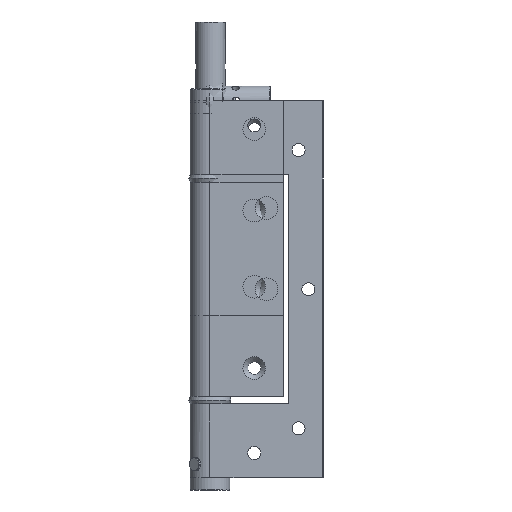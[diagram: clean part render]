
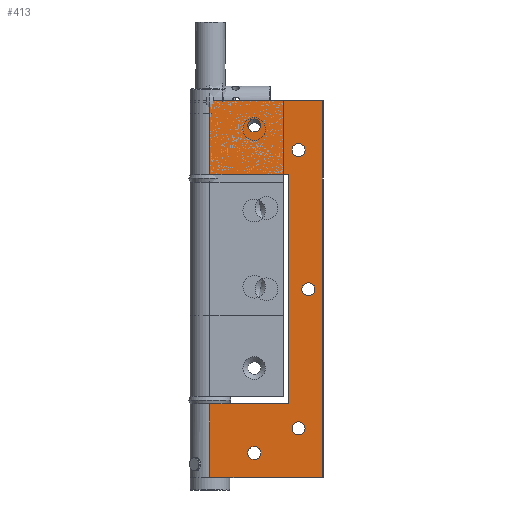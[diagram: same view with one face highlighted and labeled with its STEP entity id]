
A CAD part, front view. The second image highlights one B-rep face of the part: STEP entity #413.
In plain terms, the highlighted planar face has unit normal (0, -1, 0).
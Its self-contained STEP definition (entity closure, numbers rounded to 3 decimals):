
#413 = ADVANCED_FACE( '', ( #918, #919, #920, #921, #922, #923 ), #924, .T. );
#918 = FACE_OUTER_BOUND( '', #1465, .T. );
#919 = FACE_BOUND( '', #1466, .T. );
#920 = FACE_BOUND( '', #1467, .T. );
#921 = FACE_BOUND( '', #1468, .T. );
#922 = FACE_BOUND( '', #1469, .T. );
#923 = FACE_BOUND( '', #1470, .T. );
#924 = PLANE( '', #1471 );
#1465 = EDGE_LOOP( '', ( #2458, #2459, #2460, #2461, #2462, #2463, #2464, #2465 ) );
#1466 = EDGE_LOOP( '', ( #2466 ) );
#1467 = EDGE_LOOP( '', ( #2467 ) );
#1468 = EDGE_LOOP( '', ( #2468 ) );
#1469 = EDGE_LOOP( '', ( #2469 ) );
#1470 = EDGE_LOOP( '', ( #2470 ) );
#1471 = AXIS2_PLACEMENT_3D( '', #2471, #2472, #2473 );
#2458 = ORIENTED_EDGE( '', *, *, #2755, .T. );
#2459 = ORIENTED_EDGE( '', *, *, #3055, .T. );
#2460 = ORIENTED_EDGE( '', *, *, #3003, .T. );
#2461 = ORIENTED_EDGE( '', *, *, #2969, .T. );
#2462 = ORIENTED_EDGE( '', *, *, #2762, .T. );
#2463 = ORIENTED_EDGE( '', *, *, #2893, .F. );
#2464 = ORIENTED_EDGE( '', *, *, #2804, .T. );
#2465 = ORIENTED_EDGE( '', *, *, #3056, .T. );
#2466 = ORIENTED_EDGE( '', *, *, #3023, .T. );
#2467 = ORIENTED_EDGE( '', *, *, #2712, .T. );
#2468 = ORIENTED_EDGE( '', *, *, #2693, .T. );
#2469 = ORIENTED_EDGE( '', *, *, #3007, .T. );
#2470 = ORIENTED_EDGE( '', *, *, #3021, .T. );
#2471 = CARTESIAN_POINT( '', ( 0., -8., 0. ) );
#2472 = DIRECTION( '', ( 0., -1., 0. ) );
#2473 = DIRECTION( '', ( 0., 0., -1. ) );
#2693 = EDGE_CURVE( '', #3101, #3101, #3102, .T. );
#2712 = EDGE_CURVE( '', #3134, #3134, #3135, .T. );
#2755 = EDGE_CURVE( '', #3210, #3211, #3212, .T. );
#2762 = EDGE_CURVE( '', #3223, #3224, #3225, .T. );
#2804 = EDGE_CURVE( '', #3296, #3293, #3297, .T. );
#2893 = EDGE_CURVE( '', #3296, #3224, #3436, .T. );
#2969 = EDGE_CURVE( '', #3543, #3223, #3547, .T. );
#3003 = EDGE_CURVE( '', #3592, #3543, #3593, .T. );
#3007 = EDGE_CURVE( '', #3597, #3597, #3598, .T. );
#3021 = EDGE_CURVE( '', #3616, #3616, #3617, .T. );
#3023 = EDGE_CURVE( '', #3619, #3619, #3620, .T. );
#3055 = EDGE_CURVE( '', #3211, #3592, #3656, .T. );
#3056 = EDGE_CURVE( '', #3293, #3210, #3657, .T. );
#3101 = VERTEX_POINT( '', #3708 );
#3102 = CIRCLE( '', #3709, 2.65 );
#3134 = VERTEX_POINT( '', #3845 );
#3135 = CIRCLE( '', #3846, 2.65 );
#3210 = VERTEX_POINT( '', #4256 );
#3211 = VERTEX_POINT( '', #4257 );
#3212 = LINE( '', #4258, #4259 );
#3223 = VERTEX_POINT( '', #4272 );
#3224 = VERTEX_POINT( '', #4273 );
#3225 = LINE( '', #4274, #4275 );
#3293 = VERTEX_POINT( '', #4356 );
#3296 = VERTEX_POINT( '', #4359 );
#3297 = LINE( '', #4360, #4361 );
#3436 = LINE( '', #4601, #4602 );
#3543 = VERTEX_POINT( '', #4977 );
#3547 = LINE( '', #4982, #4983 );
#3592 = VERTEX_POINT( '', #5089 );
#3593 = LINE( '', #5090, #5091 );
#3597 = VERTEX_POINT( '', #5096 );
#3598 = CIRCLE( '', #5097, 2.65 );
#3616 = VERTEX_POINT( '', #5119 );
#3617 = CIRCLE( '', #5120, 2.65 );
#3619 = VERTEX_POINT( '', #5122 );
#3620 = CIRCLE( '', #5123, 2.65 );
#3656 = LINE( '', #5226, #5227 );
#3657 = LINE( '', #5228, #5229 );
#3708 = CARTESIAN_POINT( '', ( 42.65, -8., -76.5 ) );
#3709 = AXIS2_PLACEMENT_3D( '', #5313, #5314, #5315 );
#3845 = CARTESIAN_POINT( '', ( 38.65, -8., -133. ) );
#3846 = AXIS2_PLACEMENT_3D( '', #5341, #5342, #5343 );
#4256 = CARTESIAN_POINT( '', ( 0., -8., -30. ) );
#4257 = CARTESIAN_POINT( '', ( 32., -8., -30. ) );
#4258 = CARTESIAN_POINT( '', ( 0., -8., -30. ) );
#4259 = VECTOR( '', #5392, 1000. );
#4272 = CARTESIAN_POINT( '', ( 0., -8., -153. ) );
#4273 = CARTESIAN_POINT( '', ( 45.7, -8., -153. ) );
#4274 = CARTESIAN_POINT( '', ( 0., -8., -153. ) );
#4275 = VECTOR( '', #5404, 1000. );
#4356 = CARTESIAN_POINT( '', ( 0., -8., 0. ) );
#4359 = CARTESIAN_POINT( '', ( 45.7, -8., 0. ) );
#4360 = CARTESIAN_POINT( '', ( 45.7, -8., 0. ) );
#4361 = VECTOR( '', #5472, 1000. );
#4601 = CARTESIAN_POINT( '', ( 45.7, -8., 0. ) );
#4602 = VECTOR( '', #5586, 1000. );
#4977 = CARTESIAN_POINT( '', ( 0., -8., -123. ) );
#4982 = CARTESIAN_POINT( '', ( 0., -8., -123. ) );
#4983 = VECTOR( '', #5672, 1000. );
#5089 = CARTESIAN_POINT( '', ( 32., -8., -123. ) );
#5090 = CARTESIAN_POINT( '', ( 32., -8., -123. ) );
#5091 = VECTOR( '', #5709, 1000. );
#5096 = CARTESIAN_POINT( '', ( 38.65, -8., -20. ) );
#5097 = AXIS2_PLACEMENT_3D( '', #5711, #5712, #5713 );
#5119 = CARTESIAN_POINT( '', ( 20.65, -8., -10. ) );
#5120 = AXIS2_PLACEMENT_3D( '', #5727, #5728, #5729 );
#5122 = CARTESIAN_POINT( '', ( 20.65, -8., -143. ) );
#5123 = AXIS2_PLACEMENT_3D( '', #5730, #5731, #5732 );
#5226 = CARTESIAN_POINT( '', ( 32., -8., -30. ) );
#5227 = VECTOR( '', #5752, 1000. );
#5228 = CARTESIAN_POINT( '', ( 0., -8., 0. ) );
#5229 = VECTOR( '', #5753, 1000. );
#5313 = CARTESIAN_POINT( '', ( 40., -8., -76.5 ) );
#5314 = DIRECTION( '', ( 0., 1., 0. ) );
#5315 = DIRECTION( '', ( 1., 0., 0. ) );
#5341 = CARTESIAN_POINT( '', ( 36., -8., -133. ) );
#5342 = DIRECTION( '', ( 0., 1., 0. ) );
#5343 = DIRECTION( '', ( 1., 0., 0. ) );
#5392 = DIRECTION( '', ( 1., 0., 0. ) );
#5404 = DIRECTION( '', ( 1., 0., 0. ) );
#5472 = DIRECTION( '', ( -1., 0., 0. ) );
#5586 = DIRECTION( '', ( 0., 0., -1. ) );
#5672 = DIRECTION( '', ( 0., 0., -1. ) );
#5709 = DIRECTION( '', ( -1., 0., 0. ) );
#5711 = CARTESIAN_POINT( '', ( 36., -8., -20. ) );
#5712 = DIRECTION( '', ( 0., 1., 0. ) );
#5713 = DIRECTION( '', ( 1., 0., 0. ) );
#5727 = CARTESIAN_POINT( '', ( 18., -8., -10. ) );
#5728 = DIRECTION( '', ( 0., 1., 0. ) );
#5729 = DIRECTION( '', ( 1., 0., 0. ) );
#5730 = CARTESIAN_POINT( '', ( 18., -8., -143. ) );
#5731 = DIRECTION( '', ( 0., 1., 0. ) );
#5732 = DIRECTION( '', ( 1., 0., 0. ) );
#5752 = DIRECTION( '', ( 0., 0., -1. ) );
#5753 = DIRECTION( '', ( 0., 0., -1. ) );
